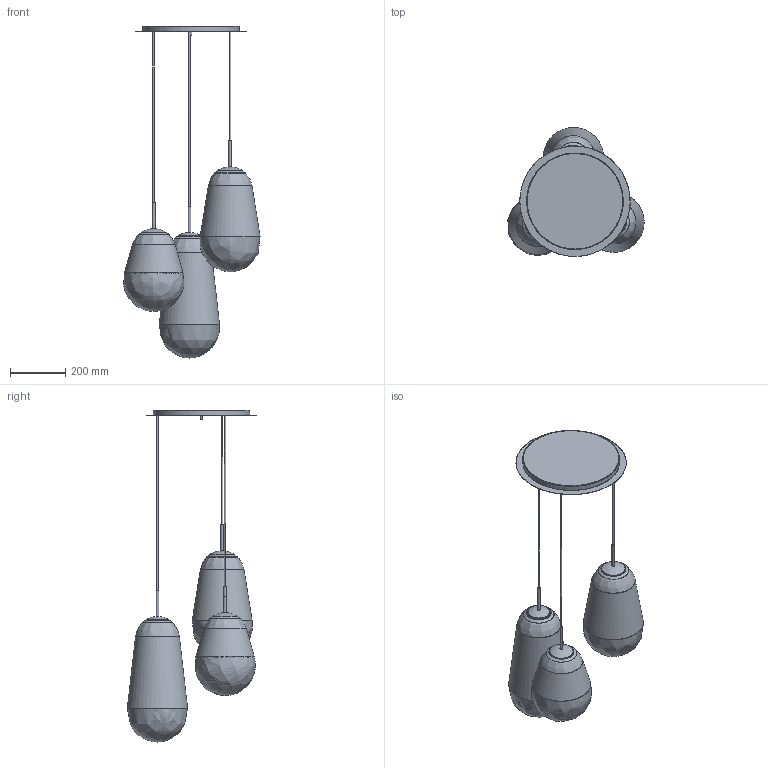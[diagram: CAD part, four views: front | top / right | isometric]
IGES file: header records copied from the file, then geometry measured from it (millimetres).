
Start section: SolidWorks IGES file using NURBS representation for surfaces
Global section: file name: Z:\Modele 3D_WWW\_KOLEKCJE_WWW\PEAR\7794\PEAR-III-7794.IGS; native system: SolidWorks 2021; preprocessor: SolidWorks 2021; author: gabriela.tworek; date: 211223.100139; units: millimetre
Bounding box: 493.68 x 469.12 x 1203.32 mm (x, y, z)
Surface area: 2186105.6 mm2 (no closed solid volume)
Topology: 0 solids, 0 shells, 569 faces, 2674 edges, 2412 vertices
Faces by surface type: bspline 569
